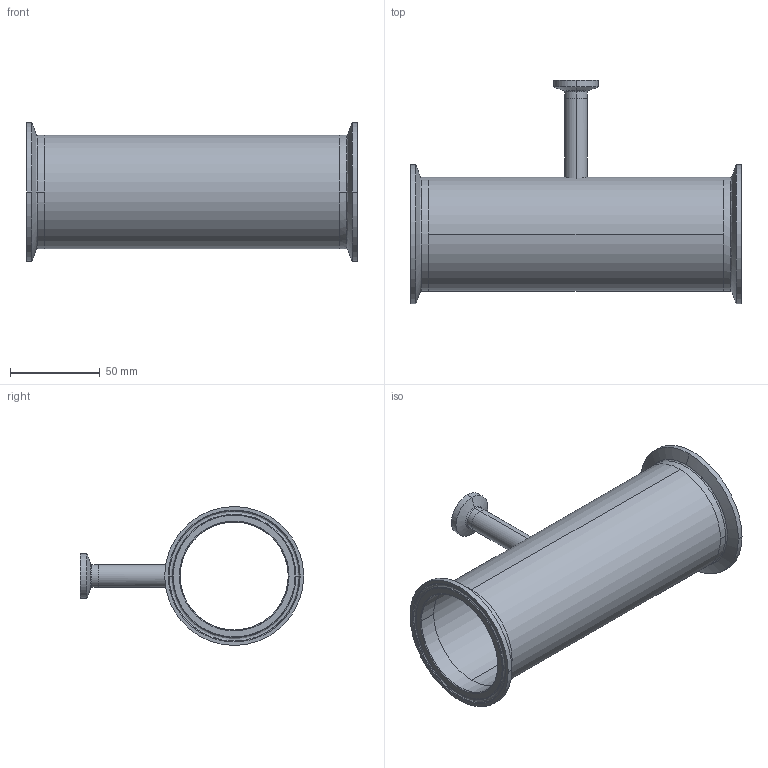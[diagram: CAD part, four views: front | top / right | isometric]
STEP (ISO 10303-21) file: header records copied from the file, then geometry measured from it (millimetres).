
FILE_DESCRIPTION (( 'STEP AP214' ), '1' );
FILE_NAME ('TEG7R6L2.5x.5-...STEP', '2016-05-24T06:48:53', ( 'eran' ), ( '' ), 'SwSTEP 2.0', 'SolidWorks 2016', '' );
FILE_SCHEMA (( 'AUTOMOTIVE_DESIGN' ));
Length unit declared in the file: millimetre
Products named in the file (1): TEG7R6L2.5x.5-..
Bounding box: 184.2 x 124.4 x 77.39 mm (x, y, z)
Volume: 75312.3 mm3; surface area: 83915.6 mm2
Topology: 4 solids, 4 shells, 84 faces, 198 edges, 126 vertices
Faces by surface type: cylinder 28, bspline 28, cone 16, plane 12
Entity records: 4111 total; most frequent: CARTESIAN_POINT 2125, DIRECTION 426, ORIENTED_EDGE 396, EDGE_CURVE 198, AXIS2_PLACEMENT_3D 191, CIRCLE 134, VERTEX_POINT 126, EDGE_LOOP 98
